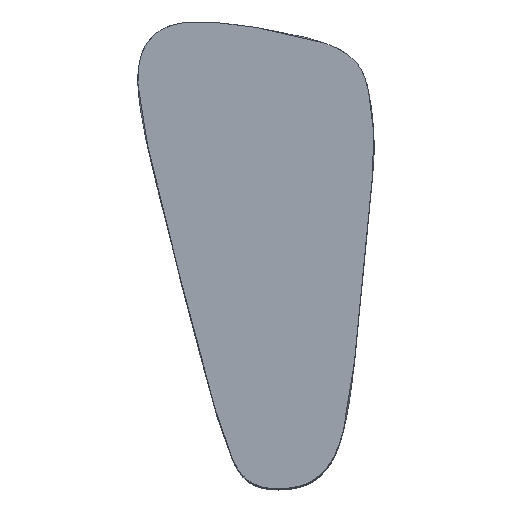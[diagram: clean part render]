
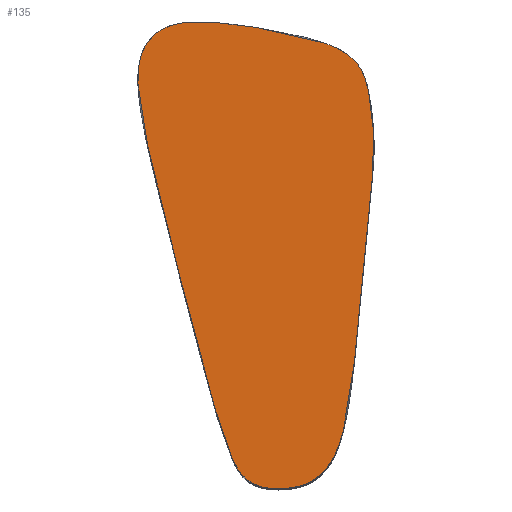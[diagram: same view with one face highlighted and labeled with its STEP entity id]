
A CAD part, top view. The second image highlights one B-rep face of the part: STEP entity #135.
In plain terms, the highlighted planar face has unit normal (0, 0, 1).
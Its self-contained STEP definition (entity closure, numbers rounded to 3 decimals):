
#25=PLANE('',#155);
#41=FACE_OUTER_BOUND('',#52,.T.);
#52=EDGE_LOOP('',(#122));
#64=B_SPLINE_CURVE_WITH_KNOTS('',3,(#1413,#1414,#1415,#1416,#1417,#1418,
#1419,#1420,#1421,#1422,#1423,#1424,#1425,#1426,#1427,#1428,#1429,#1430,
#1431,#1432,#1433,#1434,#1435,#1436,#1437,#1438,#1439,#1440,#1441,#1442,
#1443,#1444,#1445,#1446,#1447,#1448,#1449,#1450,#1451,#1452,#1453,#1454,
#1455,#1456,#1457,#1458,#1459,#1460,#1461,#1462,#1463,#1464,#1465,#1466,
#1467,#1468,#1469,#1470,#1471,#1472,#1473,#1474,#1475,#1476,#1477,#1478,
#1479,#1480,#1481,#1482,#1483,#1484,#1485,#1486,#1487,#1488,#1489,#1490,
#1491,#1492,#1493,#1494,#1495,#1496,#1497,#1498,#1499,#1500,#1501,#1502,
#1503,#1504,#1505,#1506,#1507,#1508,#1509,#1510,#1511,#1512,#1513,#1514,
#1515,#1516,#1517,#1518,#1519,#1520,#1521),.UNSPECIFIED.,.T.,.F.,(4,3,3,
3,3,3,3,3,3,3,3,3,3,3,3,3,3,3,3,3,3,3,3,3,3,3,3,3,3,3,3,3,3,3,3,3,4),(0.,
0.021,0.039,0.057,0.081,
0.108,0.136,0.161,0.186,
0.223,0.256,0.295,0.336,
0.367,0.394,0.428,0.454,
0.488,0.511,0.529,0.546,
0.571,0.599,0.633,0.659,
0.688,0.709,0.73,0.752,
0.785,0.814,0.851,0.901,
0.937,0.969,0.996,1.),.UNSPECIFIED.);
#75=VERTEX_POINT('',#1411);
#91=EDGE_CURVE('',#75,#75,#64,.T.);
#122=ORIENTED_EDGE('',*,*,#91,.T.);
#135=ADVANCED_FACE('',(#41),#25,.T.);
#155=AXIS2_PLACEMENT_3D('',#1522,#168,#169);
#168=DIRECTION('center_axis',(0.,0.,1.));
#169=DIRECTION('ref_axis',(1.,0.,0.));
#1411=CARTESIAN_POINT('',(-93.457,13.311,539.));
#1413=CARTESIAN_POINT('Ctrl Pts',(-93.457,13.311,539.));
#1414=CARTESIAN_POINT('Ctrl Pts',(-91.804,9.866,539.));
#1415=CARTESIAN_POINT('Ctrl Pts',(-90.078,6.949,539.));
#1416=CARTESIAN_POINT('Ctrl Pts',(-88.009,4.443,539.));
#1417=CARTESIAN_POINT('Ctrl Pts',(-86.18,2.229,539.));
#1418=CARTESIAN_POINT('Ctrl Pts',(-84.042,0.359,539.));
#1419=CARTESIAN_POINT('Ctrl Pts',(-81.758,-1.01,539.));
#1420=CARTESIAN_POINT('Ctrl Pts',(-79.451,-2.392,539.));
#1421=CARTESIAN_POINT('Ctrl Pts',(-77.075,-3.249,539.));
#1422=CARTESIAN_POINT('Ctrl Pts',(-74.827,-3.803,539.));
#1423=CARTESIAN_POINT('Ctrl Pts',(-71.905,-4.522,539.));
#1424=CARTESIAN_POINT('Ctrl Pts',(-69.148,-4.8,539.));
#1425=CARTESIAN_POINT('Ctrl Pts',(-66.289,-4.925,539.));
#1426=CARTESIAN_POINT('Ctrl Pts',(-63.081,-5.065,539.));
#1427=CARTESIAN_POINT('Ctrl Pts',(-59.717,-4.992,539.));
#1428=CARTESIAN_POINT('Ctrl Pts',(-56.12,-4.525,539.));
#1429=CARTESIAN_POINT('Ctrl Pts',(-52.366,-4.037,539.));
#1430=CARTESIAN_POINT('Ctrl Pts',(-48.342,-3.092,539.));
#1431=CARTESIAN_POINT('Ctrl Pts',(-44.368,-1.194,539.));
#1432=CARTESIAN_POINT('Ctrl Pts',(-40.924,0.451,539.));
#1433=CARTESIAN_POINT('Ctrl Pts',(-37.57,2.844,539.));
#1434=CARTESIAN_POINT('Ctrl Pts',(-34.682,5.948,539.));
#1435=CARTESIAN_POINT('Ctrl Pts',(-31.677,9.179,539.));
#1436=CARTESIAN_POINT('Ctrl Pts',(-29.176,13.123,539.));
#1437=CARTESIAN_POINT('Ctrl Pts',(-27.083,17.687,539.));
#1438=CARTESIAN_POINT('Ctrl Pts',(-24.073,24.254,539.));
#1439=CARTESIAN_POINT('Ctrl Pts',(-21.841,32.166,539.));
#1440=CARTESIAN_POINT('Ctrl Pts',(-19.946,41.576,539.));
#1441=CARTESIAN_POINT('Ctrl Pts',(-18.218,50.16,539.));
#1442=CARTESIAN_POINT('Ctrl Pts',(-16.781,60.008,539.));
#1443=CARTESIAN_POINT('Ctrl Pts',(-15.468,70.777,539.));
#1444=CARTESIAN_POINT('Ctrl Pts',(-13.906,83.599,539.));
#1445=CARTESIAN_POINT('Ctrl Pts',(-12.521,97.71,539.));
#1446=CARTESIAN_POINT('Ctrl Pts',(-11.206,111.752,539.));
#1447=CARTESIAN_POINT('Ctrl Pts',(-9.862,126.109,539.));
#1448=CARTESIAN_POINT('Ctrl Pts',(-8.591,140.332,539.));
#1449=CARTESIAN_POINT('Ctrl Pts',(-7.405,152.99,539.));
#1450=CARTESIAN_POINT('Ctrl Pts',(-6.496,162.686,539.));
#1451=CARTESIAN_POINT('Ctrl Pts',(-5.639,171.446,539.));
#1452=CARTESIAN_POINT('Ctrl Pts',(-4.875,179.028,539.));
#1453=CARTESIAN_POINT('Ctrl Pts',(-4.223,185.501,539.));
#1454=CARTESIAN_POINT('Ctrl Pts',(-3.642,191.118,539.));
#1455=CARTESIAN_POINT('Ctrl Pts',(-3.165,196.054,539.));
#1456=CARTESIAN_POINT('Ctrl Pts',(-2.545,202.475,539.));
#1457=CARTESIAN_POINT('Ctrl Pts',(-2.094,207.803,539.));
#1458=CARTESIAN_POINT('Ctrl Pts',(-1.98,213.443,539.));
#1459=CARTESIAN_POINT('Ctrl Pts',(-1.894,217.682,539.));
#1460=CARTESIAN_POINT('Ctrl Pts',(-2.,222.088,539.));
#1461=CARTESIAN_POINT('Ctrl Pts',(-2.284,226.84,539.));
#1462=CARTESIAN_POINT('Ctrl Pts',(-2.658,233.104,539.));
#1463=CARTESIAN_POINT('Ctrl Pts',(-3.31,239.953,539.));
#1464=CARTESIAN_POINT('Ctrl Pts',(-4.365,246.615,539.));
#1465=CARTESIAN_POINT('Ctrl Pts',(-5.084,251.152,539.));
#1466=CARTESIAN_POINT('Ctrl Pts',(-5.969,255.581,539.));
#1467=CARTESIAN_POINT('Ctrl Pts',(-7.42,259.883,539.));
#1468=CARTESIAN_POINT('Ctrl Pts',(-8.551,263.233,539.));
#1469=CARTESIAN_POINT('Ctrl Pts',(-10.072,266.551,539.));
#1470=CARTESIAN_POINT('Ctrl Pts',(-12.27,269.599,539.));
#1471=CARTESIAN_POINT('Ctrl Pts',(-14.258,272.356,539.));
#1472=CARTESIAN_POINT('Ctrl Pts',(-16.784,274.818,539.));
#1473=CARTESIAN_POINT('Ctrl Pts',(-19.663,276.867,539.));
#1474=CARTESIAN_POINT('Ctrl Pts',(-24.158,280.067,539.));
#1475=CARTESIAN_POINT('Ctrl Pts',(-29.467,282.397,539.));
#1476=CARTESIAN_POINT('Ctrl Pts',(-35.565,284.459,539.));
#1477=CARTESIAN_POINT('Ctrl Pts',(-42.151,286.686,539.));
#1478=CARTESIAN_POINT('Ctrl Pts',(-49.689,288.565,539.));
#1479=CARTESIAN_POINT('Ctrl Pts',(-57.721,290.254,539.));
#1480=CARTESIAN_POINT('Ctrl Pts',(-67.647,292.342,539.));
#1481=CARTESIAN_POINT('Ctrl Pts',(-78.29,294.134,539.));
#1482=CARTESIAN_POINT('Ctrl Pts',(-88.281,295.472,539.));
#1483=CARTESIAN_POINT('Ctrl Pts',(-95.769,296.474,539.));
#1484=CARTESIAN_POINT('Ctrl Pts',(-102.859,297.215,539.));
#1485=CARTESIAN_POINT('Ctrl Pts',(-109.271,297.542,539.));
#1486=CARTESIAN_POINT('Ctrl Pts',(-116.586,297.915,539.));
#1487=CARTESIAN_POINT('Ctrl Pts',(-123.04,297.776,539.));
#1488=CARTESIAN_POINT('Ctrl Pts',(-128.936,296.584,539.));
#1489=CARTESIAN_POINT('Ctrl Pts',(-133.326,295.697,539.));
#1490=CARTESIAN_POINT('Ctrl Pts',(-137.446,294.187,539.));
#1491=CARTESIAN_POINT('Ctrl Pts',(-141.101,291.813,539.));
#1492=CARTESIAN_POINT('Ctrl Pts',(-144.594,289.545,539.));
#1493=CARTESIAN_POINT('Ctrl Pts',(-147.608,286.474,539.));
#1494=CARTESIAN_POINT('Ctrl Pts',(-149.834,282.839,539.));
#1495=CARTESIAN_POINT('Ctrl Pts',(-152.148,279.059,539.));
#1496=CARTESIAN_POINT('Ctrl Pts',(-153.616,274.737,539.));
#1497=CARTESIAN_POINT('Ctrl Pts',(-154.399,270.073,539.));
#1498=CARTESIAN_POINT('Ctrl Pts',(-155.621,262.802,539.));
#1499=CARTESIAN_POINT('Ctrl Pts',(-155.265,254.659,539.));
#1500=CARTESIAN_POINT('Ctrl Pts',(-153.982,245.109,539.));
#1501=CARTESIAN_POINT('Ctrl Pts',(-152.876,236.869,539.));
#1502=CARTESIAN_POINT('Ctrl Pts',(-151.061,227.543,539.));
#1503=CARTESIAN_POINT('Ctrl Pts',(-148.776,217.109,539.));
#1504=CARTESIAN_POINT('Ctrl Pts',(-145.92,204.072,539.));
#1505=CARTESIAN_POINT('Ctrl Pts',(-142.321,189.323,539.));
#1506=CARTESIAN_POINT('Ctrl Pts',(-138.4,173.676,539.));
#1507=CARTESIAN_POINT('Ctrl Pts',(-132.905,151.749,539.));
#1508=CARTESIAN_POINT('Ctrl Pts',(-126.805,128.099,539.));
#1509=CARTESIAN_POINT('Ctrl Pts',(-121.049,106.033,539.));
#1510=CARTESIAN_POINT('Ctrl Pts',(-116.97,90.394,539.));
#1511=CARTESIAN_POINT('Ctrl Pts',(-113.061,75.584,539.));
#1512=CARTESIAN_POINT('Ctrl Pts',(-109.493,62.601,539.));
#1513=CARTESIAN_POINT('Ctrl Pts',(-106.396,51.334,539.));
#1514=CARTESIAN_POINT('Ctrl Pts',(-103.558,41.455,539.));
#1515=CARTESIAN_POINT('Ctrl Pts',(-100.941,33.245,539.));
#1516=CARTESIAN_POINT('Ctrl Pts',(-98.695,26.2,539.));
#1517=CARTESIAN_POINT('Ctrl Pts',(-96.62,20.387,539.));
#1518=CARTESIAN_POINT('Ctrl Pts',(-94.51,15.603,539.));
#1519=CARTESIAN_POINT('Ctrl Pts',(-94.161,14.812,539.));
#1520=CARTESIAN_POINT('Ctrl Pts',(-93.811,14.049,539.));
#1521=CARTESIAN_POINT('Ctrl Pts',(-93.457,13.311,539.));
#1522=CARTESIAN_POINT('Origin',(-78.758,146.425,539.));
